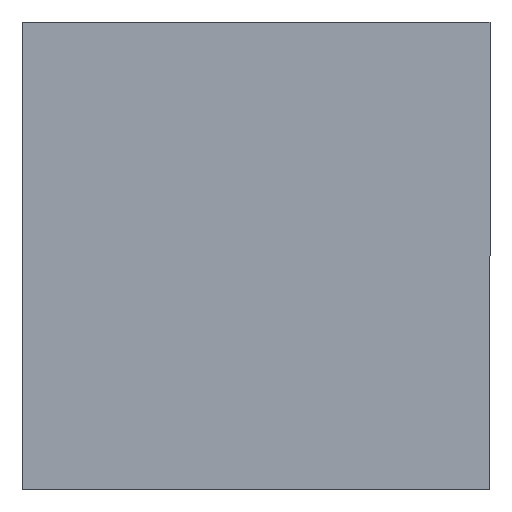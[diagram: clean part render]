
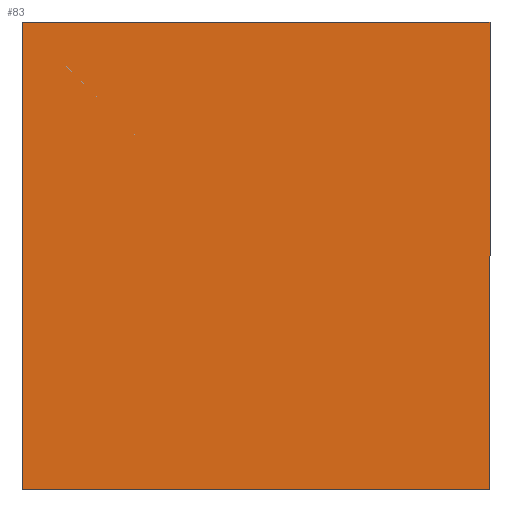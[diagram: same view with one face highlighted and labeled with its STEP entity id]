
A CAD part, front view. The second image highlights one B-rep face of the part: STEP entity #83.
In plain terms, the highlighted planar face has unit normal (0, -1, 0).
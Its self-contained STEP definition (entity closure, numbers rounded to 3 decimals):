
#7 = CARTESIAN_POINT ( 'NONE',  ( 145., 0., -290. ) ) ;
#16 = AXIS2_PLACEMENT_3D ( 'NONE', #24, #159, #199 ) ;
#18 = ORIENTED_EDGE ( 'NONE', *, *, #263, .F. ) ;
#19 = LINE ( 'NONE', #124, #272 ) ;
#24 = CARTESIAN_POINT ( 'NONE',  ( 0., 0., 0. ) ) ;
#25 = LINE ( 'NONE', #60, #78 ) ;
#37 = CARTESIAN_POINT ( 'NONE',  ( -145., 0., 0. ) ) ;
#45 = LINE ( 'NONE', #53, #230 ) ;
#53 = CARTESIAN_POINT ( 'NONE',  ( -145., 0., 0. ) ) ;
#60 = CARTESIAN_POINT ( 'NONE',  ( -145., 0., -290. ) ) ;
#63 = ORIENTED_EDGE ( 'NONE', *, *, #298, .F. ) ;
#70 = EDGE_LOOP ( 'NONE', ( #63, #143, #18, #279 ) ) ;
#78 = VECTOR ( 'NONE', #251, 1000. ) ;
#83 = ADVANCED_FACE ( 'NONE', ( #101 ), #107, .F. ) ;
#93 = CARTESIAN_POINT ( 'NONE',  ( 145., 0., 0. ) ) ;
#94 = EDGE_CURVE ( 'NONE', #268, #194, #45, .T. ) ;
#101 = FACE_OUTER_BOUND ( 'NONE', #70, .T. ) ;
#106 = CARTESIAN_POINT ( 'NONE',  ( -145., 0., -290. ) ) ;
#107 = PLANE ( 'NONE',  #16 ) ;
#124 = CARTESIAN_POINT ( 'NONE',  ( -145., 0., -290. ) ) ;
#134 = DIRECTION ( 'NONE',  ( 1., 0., 0. ) ) ;
#143 = ORIENTED_EDGE ( 'NONE', *, *, #147, .F. ) ;
#145 = DIRECTION ( 'NONE',  ( -1., 0., 0. ) ) ;
#147 = EDGE_CURVE ( 'NONE', #295, #247, #19, .T. ) ;
#159 = DIRECTION ( 'NONE',  ( 0., 1., 0. ) ) ;
#172 = LINE ( 'NONE', #266, #294 ) ;
#194 = VERTEX_POINT ( 'NONE', #93 ) ;
#199 = DIRECTION ( 'NONE',  ( 0., 0., 1. ) ) ;
#211 = DIRECTION ( 'NONE',  ( 0., 0., -1. ) ) ;
#230 = VECTOR ( 'NONE', #134, 1000. ) ;
#247 = VERTEX_POINT ( 'NONE', #106 ) ;
#251 = DIRECTION ( 'NONE',  ( 0., 0., 1. ) ) ;
#263 = EDGE_CURVE ( 'NONE', #194, #295, #172, .T. ) ;
#266 = CARTESIAN_POINT ( 'NONE',  ( 145., 0., -290. ) ) ;
#268 = VERTEX_POINT ( 'NONE', #37 ) ;
#272 = VECTOR ( 'NONE', #145, 1000. ) ;
#279 = ORIENTED_EDGE ( 'NONE', *, *, #94, .F. ) ;
#294 = VECTOR ( 'NONE', #211, 1000. ) ;
#295 = VERTEX_POINT ( 'NONE', #7 ) ;
#298 = EDGE_CURVE ( 'NONE', #247, #268, #25, .T. ) ;
